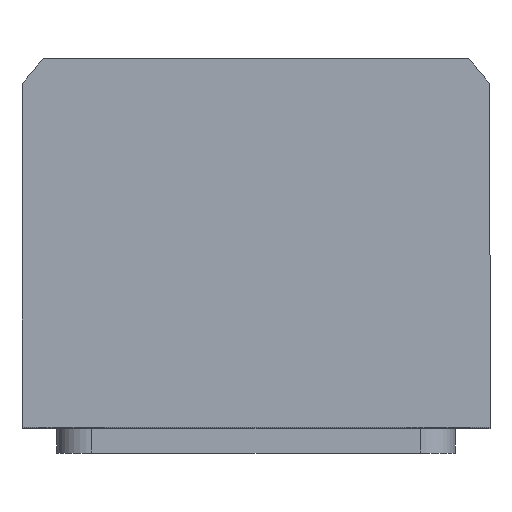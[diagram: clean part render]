
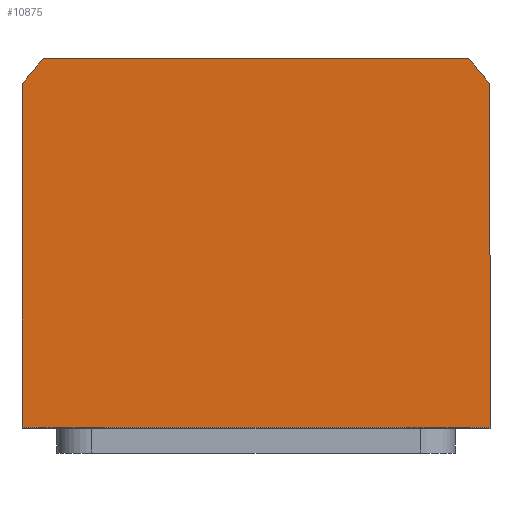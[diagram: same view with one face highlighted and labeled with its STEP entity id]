
A CAD part, top view. The second image highlights one B-rep face of the part: STEP entity #10875.
In plain terms, the highlighted planar face has unit normal (0, 0, 1).
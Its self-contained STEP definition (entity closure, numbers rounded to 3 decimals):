
#19 = VECTOR ( 'NONE', #867, 1000. ) ;
#211 = DIRECTION ( 'NONE',  ( 1., 0., 0. ) ) ;
#614 = CARTESIAN_POINT ( 'NONE',  ( -47., -34., 77.5 ) ) ;
#691 = PLANE ( 'NONE',  #1985 ) ;
#812 = LINE ( 'NONE', #3741, #6556 ) ;
#815 = ORIENTED_EDGE ( 'NONE', *, *, #2900, .T. ) ;
#867 = DIRECTION ( 'NONE',  ( 0., -1., 0. ) ) ;
#935 = CARTESIAN_POINT ( 'NONE',  ( 0., 0., 77.5 ) ) ;
#1098 = EDGE_CURVE ( 'NONE', #6132, #2542, #11078, .T. ) ;
#1111 = LINE ( 'NONE', #2039, #3170 ) ;
#1746 = CARTESIAN_POINT ( 'NONE',  ( 47., 34.832, 77.5 ) ) ;
#1758 = ORIENTED_EDGE ( 'NONE', *, *, #3586, .T. ) ;
#1770 = EDGE_LOOP ( 'NONE', ( #9262, #1758, #7859, #2982, #5626, #815 ) ) ;
#1985 = AXIS2_PLACEMENT_3D ( 'NONE', #11249, #5179, #5897 ) ;
#2039 = CARTESIAN_POINT ( 'NONE',  ( -42.688, 40., 77.5 ) ) ;
#2542 = VERTEX_POINT ( 'NONE', #4278 ) ;
#2900 = EDGE_CURVE ( 'NONE', #2542, #8422, #8495, .T. ) ;
#2982 = ORIENTED_EDGE ( 'NONE', *, *, #4760, .T. ) ;
#3170 = VECTOR ( 'NONE', #4645, 1000. ) ;
#3481 = DIRECTION ( 'NONE',  ( 1., 0., 0. ) ) ;
#3586 = EDGE_CURVE ( 'NONE', #10900, #9468, #8482, .T. ) ;
#3741 = CARTESIAN_POINT ( 'NONE',  ( 47., -34., 77.5 ) ) ;
#4218 = CARTESIAN_POINT ( 'NONE',  ( -42.688, 40., 77.5 ) ) ;
#4278 = CARTESIAN_POINT ( 'NONE',  ( -47., 34.832, 77.5 ) ) ;
#4343 = DIRECTION ( 'NONE',  ( 0., 1., 0. ) ) ;
#4645 = DIRECTION ( 'NONE',  ( -1., 0., 0. ) ) ;
#4706 = EDGE_CURVE ( 'NONE', #9468, #9661, #6005, .T. ) ;
#4760 = EDGE_CURVE ( 'NONE', #9661, #6132, #1111, .T. ) ;
#4894 = CARTESIAN_POINT ( 'NONE',  ( 42.688, 40., 77.5 ) ) ;
#4982 = CARTESIAN_POINT ( 'NONE',  ( 47., -34., 77.5 ) ) ;
#5179 = DIRECTION ( 'NONE',  ( 0., 0., 1. ) ) ;
#5278 = DIRECTION ( 'NONE',  ( 0., 0., 1. ) ) ;
#5626 = ORIENTED_EDGE ( 'NONE', *, *, #1098, .T. ) ;
#5897 = DIRECTION ( 'NONE',  ( 1., 0., 0. ) ) ;
#6005 = CIRCLE ( 'NONE', #10556, 58.5 ) ;
#6132 = VERTEX_POINT ( 'NONE', #4218 ) ;
#6556 = VECTOR ( 'NONE', #211, 1000. ) ;
#6581 = VECTOR ( 'NONE', #4343, 1000. ) ;
#6908 = CARTESIAN_POINT ( 'NONE',  ( 47., 34.832, 77.5 ) ) ;
#7859 = ORIENTED_EDGE ( 'NONE', *, *, #4706, .T. ) ;
#7965 = DIRECTION ( 'NONE',  ( 1., 0., 0. ) ) ;
#8422 = VERTEX_POINT ( 'NONE', #614 ) ;
#8482 = LINE ( 'NONE', #1746, #6581 ) ;
#8495 = LINE ( 'NONE', #8737, #19 ) ;
#8737 = CARTESIAN_POINT ( 'NONE',  ( -47., -34., 77.5 ) ) ;
#8833 = DIRECTION ( 'NONE',  ( 0., 0., 1. ) ) ;
#9262 = ORIENTED_EDGE ( 'NONE', *, *, #9502, .T. ) ;
#9468 = VERTEX_POINT ( 'NONE', #6908 ) ;
#9502 = EDGE_CURVE ( 'NONE', #8422, #10900, #812, .T. ) ;
#9639 = CARTESIAN_POINT ( 'NONE',  ( 0., 0., 77.5 ) ) ;
#9661 = VERTEX_POINT ( 'NONE', #4894 ) ;
#9768 = FACE_OUTER_BOUND ( 'NONE', #1770, .T. ) ;
#10242 = AXIS2_PLACEMENT_3D ( 'NONE', #935, #5278, #7965 ) ;
#10556 = AXIS2_PLACEMENT_3D ( 'NONE', #9639, #8833, #3481 ) ;
#10875 = ADVANCED_FACE ( 'NONE', ( #9768 ), #691, .T. ) ;
#10900 = VERTEX_POINT ( 'NONE', #4982 ) ;
#11078 = CIRCLE ( 'NONE', #10242, 58.5 ) ;
#11249 = CARTESIAN_POINT ( 'NONE',  ( 0., 0., 77.5 ) ) ;
